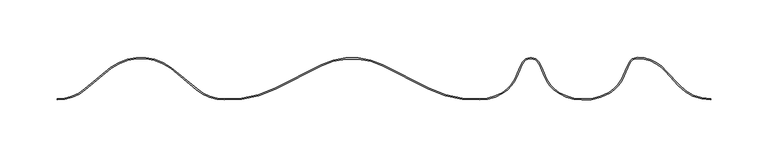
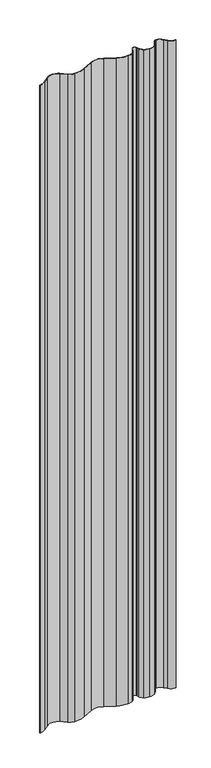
"""IFC4 building model written with IfcOpenShell, lengths in millimetres: plate geometry, Ritmica Vertical 569 : Ritmica Vertical 569."""

from ifc_helpers import new_model, si_unit, point, frame_2d, origin, origin_with_axes, place, context, project, spatial, polyline, circle_curve, trimmed, segment, composite_curve, outline, extrude, source, transform, mapped, element, save


def plate_f804d27e(model_context):
    return source(origin(), model_context, "Body", "SweptSolid", [
        extrude(outline(composite_curve([segment(trimmed(circle_curve(frame_2d((283.8785549, 38.5481114)), 37.4503244), [point((256.4087884, 13.0934708))], [point((283.8654502, 1.0977892))], True, "CARTESIAN"), True, "CONTINUOUS"), segment(polyline([(283.8654502, 1.0977892), (283.8654502, 0.0977892)]), True, "CONTINUOUS"), segment(trimmed(circle_curve(frame_2d((283.8785549, 38.5481114)), 38.4503244), [point((283.8654502, 0.0977892))], [point((255.6752896, 12.41378))], False, "CARTESIAN"), True, "CONTINUOUS"), segment(polyline([(255.6752896, 12.41378), (244.5420668, 24.4283685)]), True, "CONTINUOUS"), segment(trimmed(circle_curve(frame_2d((220.3373203, 5.2118947)), 30.9053816), [point((244.5420668, 24.4283685))], [point((220.32782, 36.1172749))], True, "CARTESIAN"), True, "CONTINUOUS"), segment(trimmed(circle_curve(frame_2d((220.3302366, 28.2559308)), 7.8613444), [point((220.32782, 36.1172749))], [point((213.2413834, 31.6542977))], True, "CARTESIAN"), True, "CONTINUOUS"), segment(polyline([(213.2413834, 31.6542977), (211.5948412, 28.2196786), (208.7251997, 21.0562431)]), True, "CONTINUOUS"), segment(trimmed(circle_curve(frame_2d((179.3703863, 32.799721)), 31.6166782), [point((208.7251997, 21.0562431))], [point((195.8603, 5.8238597))], False, "CARTESIAN"), True, "CONTINUOUS"), segment(trimmed(circle_curve(frame_2d((174.2544027, 42.1813307)), 42.2927948), [point((195.8603, 5.8238597))], [point((171.550378, -0.0249336))], False, "CARTESIAN"), True, "CONTINUOUS"), segment(trimmed(circle_curve(frame_2d((171.5848607, 38.4253754)), 38.4503244), [point((171.550378, -0.0249336))], [point((151.5205344, 5.625219))], False, "CARTESIAN"), True, "CONTINUOUS"), segment(trimmed(circle_curve(frame_2d((168.0188958, 32.5959145)), 31.6166783), [point((151.5205344, 5.625219))], [point((138.6627679, 20.8557228))], False, "CARTESIAN"), True, "CONTINUOUS"), segment(polyline([(138.6627679, 20.8557228), (135.7939389, 28.0194056), (134.1477735, 31.4542051)]), True, "CONTINUOUS"), segment(trimmed(circle_curve(frame_2d((127.0585476, 28.0566157)), 7.8613445), [point((134.1477735, 31.4542051))], [point((119.9696943, 31.4549824))], True, "CARTESIAN"), True, "CONTINUOUS"), segment(polyline([(119.9696943, 31.4549824), (118.3231523, 28.0203634), (115.4535378, 20.8569952)]), True, "CONTINUOUS"), segment(trimmed(circle_curve(frame_2d((86.0986974, 32.6004057)), 31.6166783), [point((115.4535378, 20.8569952))], [point((102.5941014, 5.6279013))], False, "CARTESIAN"), True, "CONTINUOUS"), segment(trimmed(circle_curve(frame_2d((82.5333717, 38.4302575)), 38.4503244), [point((102.5941014, 5.6279013))], [point((82.5490295, -0.0200637))], False, "CARTESIAN"), True, "CONTINUOUS"), segment(trimmed(circle_curve(frame_2d((79.2355463, 94.2150762)), 94.293376), [point((82.5490295, -0.0200637))], [point((38.3420514, 9.2505963))], False, "CARTESIAN"), True, "CONTINUOUS"), segment(polyline([(38.3420514, 9.2505963), (-2.2030935, 29.6386385)]), True, "CONTINUOUS"), segment(trimmed(circle_curve(frame_2d((-28.7087212, -23.0723821)), 59.0), [point((-2.2030935, 29.6386385))], [point((-55.2085691, 29.6415445))], True, "CARTESIAN"), True, "CONTINUOUS"), segment(polyline([(-55.2085691, 29.6415445), (-95.7559492, 9.257948)]), True, "CONTINUOUS"), segment(trimmed(circle_curve(frame_2d((-136.6401278, 94.2269112)), 94.293376), [point((-95.7559492, 9.257948))], [point((-139.9639446, -0.0078648))], False, "CARTESIAN"), True, "CONTINUOUS"), segment(trimmed(circle_curve(frame_2d((-139.9440873, 38.1235504)), 38.1314203), [point((-139.9639446, -0.0078648))], [point((-164.3530597, 8.8283753))], False, "CARTESIAN"), True, "CONTINUOUS"), segment(polyline([(-164.3530597, 8.8283753), (-186.762706, 27.5002705)]), True, "CONTINUOUS"), segment(trimmed(circle_curve(frame_2d((-212.5736037, -7.0672243)), 43.1406321), [point((-186.762706, 27.5002705))], [point((-238.3807111, 27.5031003))], True, "CARTESIAN"), True, "CONTINUOUS"), segment(polyline([(-238.3807111, 27.5031003), (-261.0947188, 8.833569)]), True, "CONTINUOUS"), segment(trimmed(circle_curve(frame_2d((-285.5004789, 38.1314203)), 38.1314203), [point((-261.0947188, 8.833569))], [point((-285.5025694, 0.0))], False, "CARTESIAN"), True, "CONTINUOUS"), segment(polyline([(-285.5025694, 0.0), (-285.5028785, 1.0)]), True, "CONTINUOUS"), segment(trimmed(circle_curve(frame_2d((-285.5004789, 38.1314203)), 37.1314203), [point((-285.5028785, 1.0))], [point((-261.7347621, 9.6019078))], True, "CARTESIAN"), True, "CONTINUOUS"), segment(polyline([(-261.7347621, 9.6019078), (-239.0003943, 28.2883996)]), True, "CONTINUOUS"), segment(trimmed(circle_curve(frame_2d((-212.5736037, -7.0672243)), 44.1406321), [point((-239.0003943, 28.2883996))], [point((-186.1429367, 28.2855017))], False, "CARTESIAN"), True, "CONTINUOUS"), segment(polyline([(-186.1429367, 28.2855017), (-163.7129322, 9.596644)]), True, "CONTINUOUS"), segment(trimmed(circle_curve(frame_2d((-139.9440873, 38.1235504)), 37.1314203), [point((-163.7129322, 9.596644))], [point((-139.946123, 0.9921301))], True, "CARTESIAN"), True, "CONTINUOUS"), segment(trimmed(circle_curve(frame_2d((-136.6401278, 94.2269112)), 93.293376), [point((-139.946123, 0.9921301))], [point((-96.1973292, 10.1553105))], True, "CARTESIAN"), True, "CONTINUOUS"), segment(polyline([(-96.1973292, 10.1553105), (-55.6577191, 30.5350009)]), True, "CONTINUOUS"), segment(trimmed(circle_curve(frame_2d((-28.7087212, -23.0723821)), 60.0), [point((-55.6577191, 30.5350009))], [point((-1.7538456, 30.5320457))], False, "CARTESIAN"), True, "CONTINUOUS"), segment(polyline([(-1.7538456, 30.5320457), (38.7835297, 10.1479104)]), True, "CONTINUOUS"), segment(trimmed(circle_curve(frame_2d((79.2355463, 94.2150762)), 93.293376), [point((38.7835297, 10.1479104))], [point((82.5313186, 0.9799331))], True, "CARTESIAN"), True, "CONTINUOUS"), segment(trimmed(circle_curve(frame_2d((82.5333717, 38.4302575)), 37.4503244), [point((82.5313186, 0.9799331))], [point((102.0723703, 6.4810113))], True, "CARTESIAN"), True, "CONTINUOUS"), segment(trimmed(circle_curve(frame_2d((86.0986974, 32.6004057)), 30.6166783), [point((102.0723703, 6.4810113))], [point((114.5251638, 21.2286426))], True, "CARTESIAN"), True, "CONTINUOUS"), segment(polyline([(114.5251638, 21.2286426), (117.4071441, 28.4228795), (119.0679588, 31.8872706)]), True, "CONTINUOUS"), segment(trimmed(circle_curve(frame_2d((127.0585476, 28.0566157)), 8.8613445), [point((119.0679588, 31.8872706))], [point((135.0495564, 31.8863945))], False, "CARTESIAN"), True, "CONTINUOUS"), segment(polyline([(135.0495564, 31.8863945), (136.7099912, 28.4218212), (139.5911827, 21.2272684)]), True, "CONTINUOUS"), segment(trimmed(circle_curve(frame_2d((168.0188958, 32.5959145)), 30.6166783), [point((139.5911827, 21.2272684))], [point((152.042359, 6.4782718))], True, "CARTESIAN"), True, "CONTINUOUS"), segment(trimmed(circle_curve(frame_2d((171.5848607, 38.4253754)), 37.4503244), [point((152.042359, 6.4782718))], [point((171.5828079, 0.975051))], True, "CARTESIAN"), True, "CONTINUOUS"), segment(trimmed(circle_curve(frame_2d((174.2544027, 42.1813307)), 41.2927948), [point((171.5828079, 0.975051))], [point((195.3440609, 6.6803276))], True, "CARTESIAN"), True, "CONTINUOUS"), segment(trimmed(circle_curve(frame_2d((179.3703863, 32.799721)), 30.6166783), [point((195.3440609, 6.6803276))], [point((207.7968398, 21.4279255))], True, "CARTESIAN"), True, "CONTINUOUS"), segment(polyline([(207.7968398, 21.4279255), (210.6788331, 28.6221947), (212.339648, 32.086586)]), True, "CONTINUOUS"), segment(trimmed(circle_curve(frame_2d((220.3302366, 28.2559308)), 8.8613444), [point((212.339648, 32.086586))], [point((220.3275126, 37.1172748))], False, "CARTESIAN"), True, "CONTINUOUS"), segment(trimmed(circle_curve(frame_2d((220.3373203, 5.2118947)), 31.9053816), [point((220.3275126, 37.1172748))], [point((245.301309, 25.0802778))], False, "CARTESIAN"), True, "CONTINUOUS"), segment(polyline([(245.301309, 25.0802778), (256.4087884, 13.0934708)]), True, "CONTINUOUS")], self_intersect=False)), origin_with_axes(), (0.0, 0.0, 1.0), 2859.2009216),
    ])


if __name__ == "__main__":
    model = new_model("IFC4")
    model_context = context("Model", 3, world=origin())
    ifc_project = project(units=[si_unit("LENGTHUNIT", "METRE", prefix="MILLI")], contexts=[model_context])
    site = spatial("IfcSite", under=ifc_project)
    building = spatial("IfcBuilding", under=site)
    placement = place(None, origin())
    plate_shape = plate_f804d27e(model_context)
    element("IfcPlate", 1, ObjectType="Ritmica Vertical 569 : Ritmica Vertical 569", at=placement, inside=building, context=model_context, shape_type="MappedRepresentation", body=[
        mapped(plate_shape, transform((0.0, 0.0, 0.0), x_axis=(1.0, 0.0, 0.0), y_axis=(0.0, 1.0, 0.0), z_axis=(0.0, 0.0, 1.0))),
    ])
    save(model, "model.ifc")
